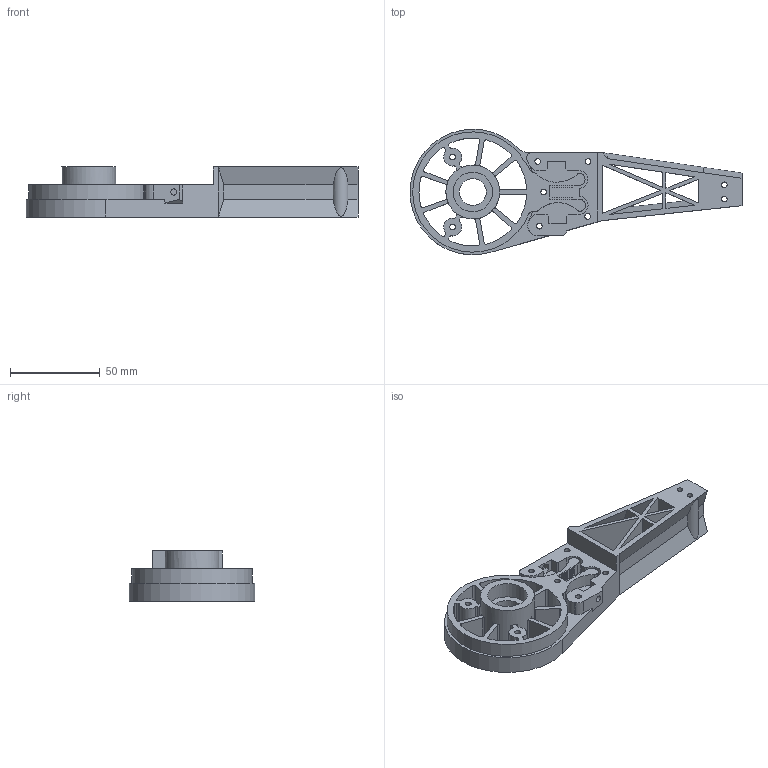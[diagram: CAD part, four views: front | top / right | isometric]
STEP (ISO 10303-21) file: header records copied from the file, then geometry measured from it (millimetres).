
FILE_DESCRIPTION(/* description */ (''),/* implementation_level */ '2;1');
FILE_NAME(/* name */ 'D:\3D печать\Мои проекты\Archy MK 2\STEP\MK3\плечо V3,1.stp',/* time_stamp */ '2019-08-16T22:57:52+06:00',/* author */ ('Пользователь'),/* organization */ (''),/* preprocessor_version */ 'ST-DEVELOPER v16.5',/* originating_system */ 'Autodesk Inventor 2017',/* authorisation */ '');
FILE_SCHEMA (('AUTOMOTIVE_DESIGN { 1 0 10303 214 3 1 1 }'));
Length unit declared in the file: millimetre
Products named in the file (1): плечо V4,1
Bounding box: 184.89 x 69.92 x 28 mm (x, y, z)
Volume: 90097.7 mm3; surface area: 46184.2 mm2
Topology: 1 solids, 1 shells, 315 faces, 936 edges, 636 vertices
Faces by surface type: plane 212, cylinder 102, bspline 1
Full cylindrical faces by diameter (mm): 3.15 x2, 3.2 x8, 3.4 x2, 15 x1, 22.04 x2, 30 x1
Entity records: 10594 total; most frequent: CARTESIAN_POINT 1877, ORIENTED_EDGE 1810, DIRECTION 1771, EDGE_CURVE 905, LINE 689, VECTOR 689, VERTEX_POINT 611, AXIS2_PLACEMENT_3D 541
